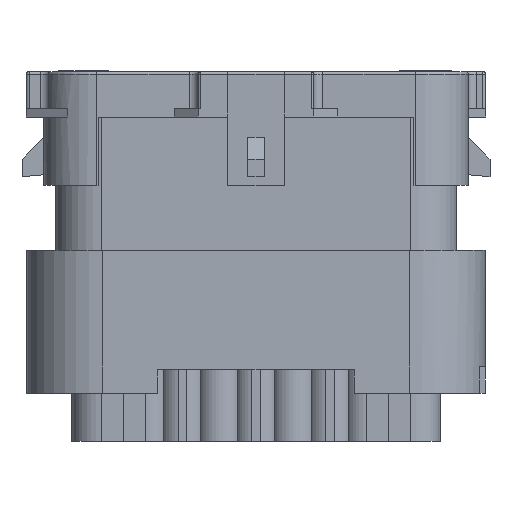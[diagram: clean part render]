
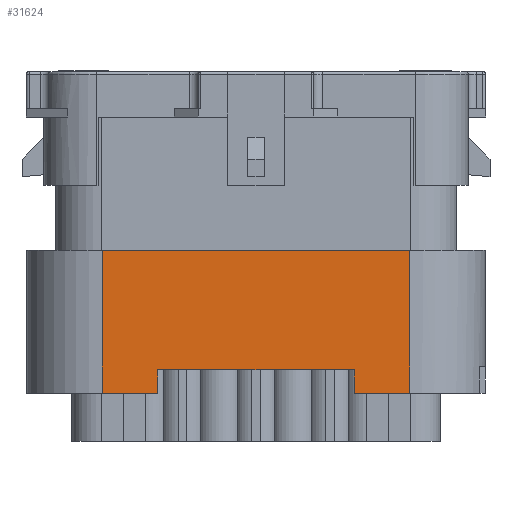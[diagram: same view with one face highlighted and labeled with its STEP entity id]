
A CAD part, front view. The second image highlights one B-rep face of the part: STEP entity #31624.
In plain terms, the highlighted planar face has unit normal (0, -1, 0).
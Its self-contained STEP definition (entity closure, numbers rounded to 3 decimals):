
#4294=DIRECTION('',(-1.,0.,0.));
#4295=VECTOR('',#4294,35.1);
#4296=CARTESIAN_POINT('',(17.55,-23.15,-7.4));
#4297=LINE('',#4296,#4295);
#4487=DIRECTION('',(-1.,0.,0.));
#4488=VECTOR('',#4487,6.325);
#4489=CARTESIAN_POINT('',(17.55,-23.15,-23.7));
#4490=LINE('',#4489,#4488);
#4525=DIRECTION('',(-1.,0.,0.));
#4526=VECTOR('',#4525,6.325);
#4527=CARTESIAN_POINT('',(-11.225,-23.15,-23.7));
#4528=LINE('',#4527,#4526);
#5573=DIRECTION('',(0.,0.,-1.));
#5574=VECTOR('',#5573,16.3);
#5575=CARTESIAN_POINT('',(-17.55,-23.15,-7.4));
#5576=LINE('',#5575,#5574);
#5577=DIRECTION('',(1.,0.,0.));
#5578=VECTOR('',#5577,22.45);
#5579=CARTESIAN_POINT('',(-11.225,-23.15,-21.05));
#5580=LINE('',#5579,#5578);
#5581=DIRECTION('',(0.,0.,1.));
#5582=VECTOR('',#5581,2.65);
#5583=CARTESIAN_POINT('',(-11.225,-23.15,-23.7));
#5584=LINE('',#5583,#5582);
#5585=DIRECTION('',(0.,0.,-1.));
#5586=VECTOR('',#5585,16.3);
#5587=CARTESIAN_POINT('',(17.55,-23.15,-7.4));
#5588=LINE('',#5587,#5586);
#5589=DIRECTION('',(0.,0.,1.));
#5590=VECTOR('',#5589,2.65);
#5591=CARTESIAN_POINT('',(11.225,-23.15,-23.7));
#5592=LINE('',#5591,#5590);
#21728=CARTESIAN_POINT('',(17.55,-23.15,-7.4));
#21729=VERTEX_POINT('',#21728);
#21730=CARTESIAN_POINT('',(-17.55,-23.15,-7.4));
#21731=VERTEX_POINT('',#21730);
#21738=CARTESIAN_POINT('',(-17.55,-23.15,-23.7));
#21740=VERTEX_POINT('',#21738);
#21744=CARTESIAN_POINT('',(17.55,-23.15,-23.7));
#21745=VERTEX_POINT('',#21744);
#21795=CARTESIAN_POINT('',(11.225,-23.15,-23.7));
#21797=VERTEX_POINT('',#21795);
#21799=CARTESIAN_POINT('',(-11.225,-23.15,-23.7));
#21801=VERTEX_POINT('',#21799);
#21802=CARTESIAN_POINT('',(-11.225,-23.15,-21.05));
#21803=CARTESIAN_POINT('',(11.225,-23.15,-21.05));
#21804=VERTEX_POINT('',#21802);
#21805=VERTEX_POINT('',#21803);
#31605=CARTESIAN_POINT('',(17.55,-23.15,-7.4));
#31606=DIRECTION('',(0.,-1.,0.));
#31607=DIRECTION('',(-1.,0.,0.));
#31608=AXIS2_PLACEMENT_3D('',#31605,#31606,#31607);
#31609=PLANE('',#31608);
#31611=ORIENTED_EDGE('',*,*,#31610,.F.);
#31613=ORIENTED_EDGE('',*,*,#31612,.F.);
#31614=ORIENTED_EDGE('',*,*,#30463,.T.);
#31615=ORIENTED_EDGE('',*,*,#31598,.F.);
#31616=ORIENTED_EDGE('',*,*,#30241,.F.);
#31618=ORIENTED_EDGE('',*,*,#31617,.T.);
#31619=ORIENTED_EDGE('',*,*,#30429,.T.);
#31621=ORIENTED_EDGE('',*,*,#31620,.T.);
#31622=EDGE_LOOP('',(#31611,#31613,#31614,#31615,#31616,#31618,#31619,#31621));
#31623=FACE_OUTER_BOUND('',#31622,.F.);
#31624=ADVANCED_FACE('',(#31623),#31609,.T.);
#30241=EDGE_CURVE('',#21729,#21731,#4297,.T.);
#30429=EDGE_CURVE('',#21745,#21797,#4490,.T.);
#30463=EDGE_CURVE('',#21801,#21740,#4528,.T.);
#31598=EDGE_CURVE('',#21731,#21740,#5576,.T.);
#31610=EDGE_CURVE('',#21804,#21805,#5580,.T.);
#31612=EDGE_CURVE('',#21801,#21804,#5584,.T.);
#31617=EDGE_CURVE('',#21729,#21745,#5588,.T.);
#31620=EDGE_CURVE('',#21797,#21805,#5592,.T.);
